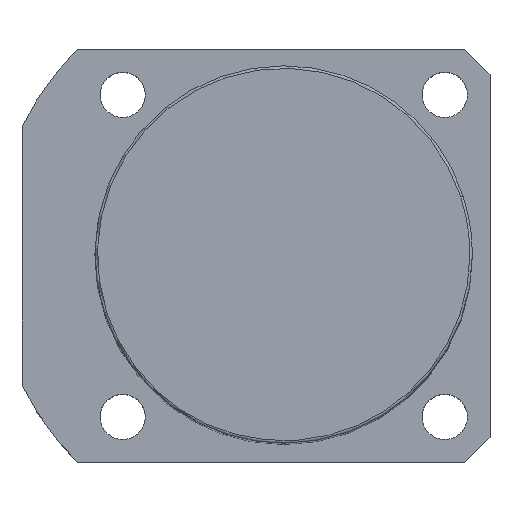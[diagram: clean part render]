
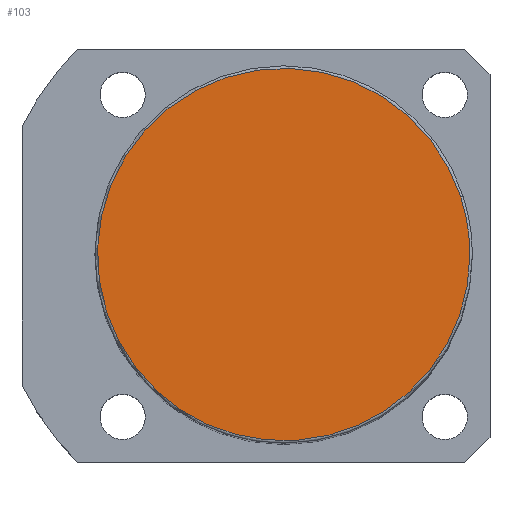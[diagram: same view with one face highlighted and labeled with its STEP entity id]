
A CAD part, top view. The second image highlights one B-rep face of the part: STEP entity #103.
In plain terms, the highlighted planar face has unit normal (0, 0, 1).
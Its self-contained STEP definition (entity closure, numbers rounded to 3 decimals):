
#16=CARTESIAN_POINT('',(-35.189,-11.434,168.0));
#17=VERTEX_POINT('',#16);
#54=CARTESIAN_POINT('',(35.189,11.434,168.0));
#55=VERTEX_POINT('',#54);
#63=CARTESIAN_POINT('',(37.0,0.0,168.0));
#64=VERTEX_POINT('',#63);
#65=CARTESIAN_POINT('',(0.0,0.0,168.0));
#66=DIRECTION('',(0.0,0.0,1.0));
#67=DIRECTION('',(1.0,0.0,0.0));
#68=AXIS2_PLACEMENT_3D('',#65,#66,#67);
#69=CIRCLE('',#68,37.0);
#70=EDGE_CURVE('no 898',#64,#55,#69,.T.);
#72=CARTESIAN_POINT('',(0.0,0.0,168.0));
#73=DIRECTION('',(0.0,0.0,1.0));
#74=DIRECTION('',(1.0,0.0,0.0));
#75=AXIS2_PLACEMENT_3D('',#72,#73,#74);
#76=CIRCLE('',#75,37.0);
#77=EDGE_CURVE('no 902',#17,#64,#76,.T.);
#87=ORIENTED_EDGE('',*,*,#70,.T.);
#88=CARTESIAN_POINT('',(0.0,0.0,168.0));
#89=DIRECTION('',(0.0,0.0,1.0));
#90=DIRECTION('',(1.0,0.0,0.0));
#91=AXIS2_PLACEMENT_3D('',#88,#89,#90);
#92=CIRCLE('',#91,37.0);
#93=EDGE_CURVE('no 911',#55,#17,#92,.T.);
#94=ORIENTED_EDGE('',*,*,#93,.T.);
#95=ORIENTED_EDGE('',*,*,#77,.T.);
#96=EDGE_LOOP('',(#87,#94,#95));
#97=FACE_OUTER_BOUND('',#96,.T.);
#98=CARTESIAN_POINT('',(0.0,0.0,168.0));
#99=DIRECTION('',(0.0,0.0,1.0));
#100=DIRECTION('',(1.0,0.0,0.0));
#101=AXIS2_PLACEMENT_3D('',#98,#99,#100);
#102=PLANE('',#101);
#103=ADVANCED_FACE('no 904',(#97),#102,.T.);
